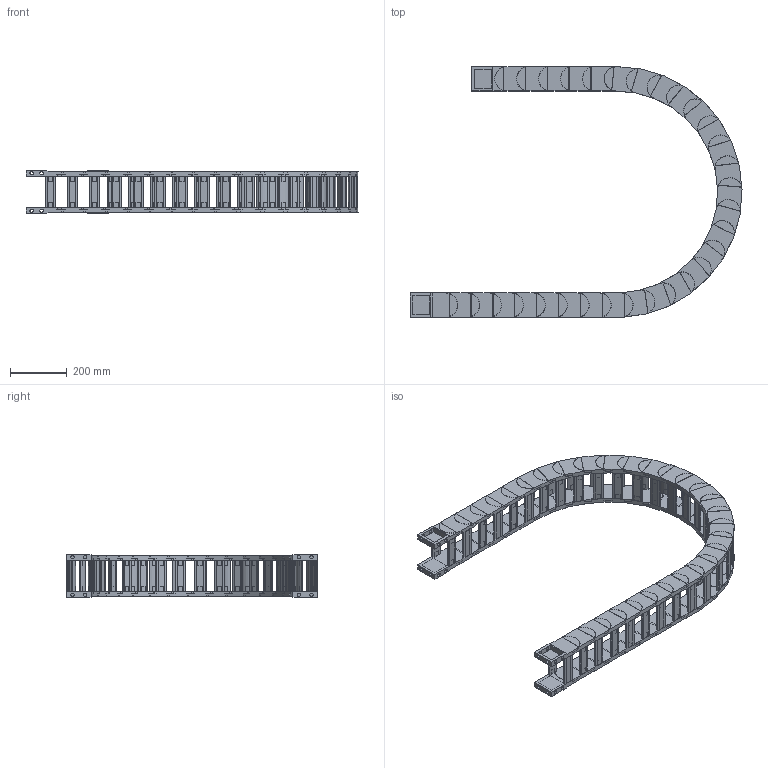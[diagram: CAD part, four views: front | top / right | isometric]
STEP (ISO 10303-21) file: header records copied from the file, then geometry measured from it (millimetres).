
FILE_DESCRIPTION((''),'2;1');
FILE_NAME('HD65-R400-ZPT_ASM','2022-07-25T17:21:22',('admin'),(''),'CREO PARAMETRIC BY PTC INC, 2021164','CREO PARAMETRIC BY PTC INC, 2021164','');
FILE_SCHEMA(('CONFIG_CONTROL_DESIGN','GEOMETRIC_VALIDATION_PROPERTIES_MIM'));
Length unit declared in the file: millimetre
Products named in the file (6): HD65; 65-50HDQSYP; HD65_ASM; H65-T1; H65-T2; HD65-R400-ZPT_ASM
Assembly tree (35 placements, depth 3):
  HD65-R400-ZPT_ASM
    HD65_ASM  x29
      HD65
      65-50HDQSYP
    H65-T1
    H65-T2
    65-50HDQSYP  x2
Bounding box: 1173.19 x 885.73 x 150.3 mm (x, y, z)
Volume: 8941547.6 mm3; surface area: 2670734.1 mm2
Topology: 124 solids, 124 shells, 2276 faces, 5998 edges, 4098 vertices
Faces by surface type: plane 1752, cylinder 524
Entity records: 9004 total; most frequent: CARTESIAN_POINT 1346, DIRECTION 1314, ORIENTED_EDGE 1212, EDGE_CURVE 606, AXIS2_PLACEMENT_3D 445, VECTOR 424, LINE 424, VERTEX_POINT 410
